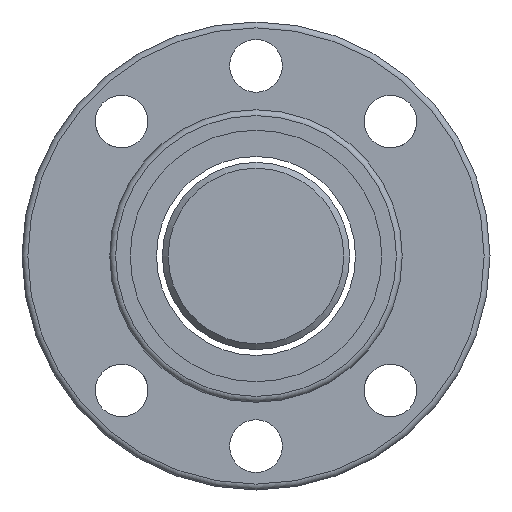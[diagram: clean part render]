
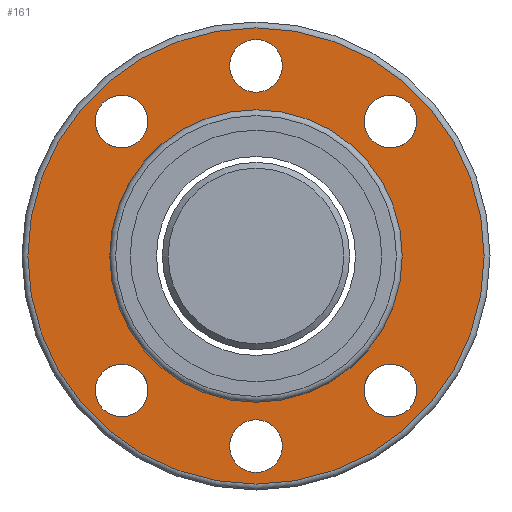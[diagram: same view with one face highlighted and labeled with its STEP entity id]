
A CAD part, left-side view. The second image highlights one B-rep face of the part: STEP entity #161.
In plain terms, the highlighted planar face has unit normal (-1, 0, 0).
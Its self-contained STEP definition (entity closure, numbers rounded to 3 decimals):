
#122=PLANE('',#671);
#137=FACE_OUTER_BOUND('',#326,.T.);
#161=ADVANCED_FACE('',(#232,#233,#234,#235,#236,#237,#238,#137),#122,.T.);
#232=FACE_BOUND('',#319,.T.);
#233=FACE_BOUND('',#320,.T.);
#234=FACE_BOUND('',#321,.T.);
#235=FACE_BOUND('',#322,.T.);
#236=FACE_BOUND('',#323,.T.);
#237=FACE_BOUND('',#324,.T.);
#238=FACE_BOUND('',#325,.T.);
#319=EDGE_LOOP('',(#417));
#320=EDGE_LOOP('',(#418));
#321=EDGE_LOOP('',(#419));
#322=EDGE_LOOP('',(#420));
#323=EDGE_LOOP('',(#421));
#324=EDGE_LOOP('',(#422));
#325=EDGE_LOOP('',(#423));
#326=EDGE_LOOP('',(#424));
#417=ORIENTED_EDGE('',*,*,#552,.F.);
#418=ORIENTED_EDGE('',*,*,#553,.F.);
#419=ORIENTED_EDGE('',*,*,#554,.F.);
#420=ORIENTED_EDGE('',*,*,#555,.F.);
#421=ORIENTED_EDGE('',*,*,#556,.F.);
#422=ORIENTED_EDGE('',*,*,#557,.F.);
#423=ORIENTED_EDGE('',*,*,#551,.T.);
#424=ORIENTED_EDGE('',*,*,#558,.F.);
#502=VERTEX_POINT('',#958);
#503=VERTEX_POINT('',#961);
#504=VERTEX_POINT('',#963);
#505=VERTEX_POINT('',#965);
#506=VERTEX_POINT('',#967);
#507=VERTEX_POINT('',#969);
#508=VERTEX_POINT('',#971);
#509=VERTEX_POINT('',#973);
#551=EDGE_CURVE('',#502,#502,#600,.T.);
#552=EDGE_CURVE('',#503,#503,#601,.T.);
#553=EDGE_CURVE('',#504,#504,#602,.T.);
#554=EDGE_CURVE('',#505,#505,#603,.T.);
#555=EDGE_CURVE('',#506,#506,#604,.T.);
#556=EDGE_CURVE('',#507,#507,#605,.T.);
#557=EDGE_CURVE('',#508,#508,#606,.T.);
#558=EDGE_CURVE('',#509,#509,#607,.T.);
#600=CIRCLE('',#662,25.);
#601=CIRCLE('',#664,4.5);
#602=CIRCLE('',#665,4.5);
#603=CIRCLE('',#666,4.5);
#604=CIRCLE('',#667,4.5);
#605=CIRCLE('',#668,4.5);
#606=CIRCLE('',#669,4.5);
#607=CIRCLE('',#670,39.);
#662=AXIS2_PLACEMENT_3D('',#957,#782,#783);
#664=AXIS2_PLACEMENT_3D('',#960,#786,#787);
#665=AXIS2_PLACEMENT_3D('',#962,#788,#789);
#666=AXIS2_PLACEMENT_3D('',#964,#790,#791);
#667=AXIS2_PLACEMENT_3D('',#966,#792,#793);
#668=AXIS2_PLACEMENT_3D('',#968,#794,#795);
#669=AXIS2_PLACEMENT_3D('',#970,#796,#797);
#670=AXIS2_PLACEMENT_3D('',#972,#798,#799);
#671=AXIS2_PLACEMENT_3D('',#974,#800,#801);
#782=DIRECTION('',(1.,0.,0.));
#783=DIRECTION('',(0.,0.,-1.));
#786=DIRECTION('',(-1.,0.,0.));
#787=DIRECTION('',(0.,0.,1.));
#788=DIRECTION('',(-1.,0.,0.));
#789=DIRECTION('',(0.,0.,1.));
#790=DIRECTION('',(-1.,0.,0.));
#791=DIRECTION('',(0.,0.,1.));
#792=DIRECTION('',(-1.,0.,0.));
#793=DIRECTION('',(0.,0.,1.));
#794=DIRECTION('',(-1.,0.,0.));
#795=DIRECTION('',(0.,0.,1.));
#796=DIRECTION('',(-1.,0.,0.));
#797=DIRECTION('',(0.,0.,1.));
#798=DIRECTION('',(1.,0.,0.));
#799=DIRECTION('',(0.,0.,-1.));
#800=DIRECTION('',(-1.,0.,0.));
#801=DIRECTION('',(0.,0.,1.));
#957=CARTESIAN_POINT('',(-27.,0.,0.));
#958=CARTESIAN_POINT('',(-27.,0.,-25.));
#960=CARTESIAN_POINT('',(-27.,22.981,22.981));
#961=CARTESIAN_POINT('',(-27.,22.981,27.481));
#962=CARTESIAN_POINT('',(-27.,22.981,-22.981));
#963=CARTESIAN_POINT('',(-27.,22.981,-18.481));
#964=CARTESIAN_POINT('',(-27.,0.,-32.5));
#965=CARTESIAN_POINT('',(-27.,0.,-28.));
#966=CARTESIAN_POINT('',(-27.,-22.981,-22.981));
#967=CARTESIAN_POINT('',(-27.,-22.981,-18.481));
#968=CARTESIAN_POINT('',(-27.,-22.981,22.981));
#969=CARTESIAN_POINT('',(-27.,-22.981,27.481));
#970=CARTESIAN_POINT('',(-27.,0.,32.5));
#971=CARTESIAN_POINT('',(-27.,0.,37.));
#972=CARTESIAN_POINT('',(-27.,0.,0.));
#973=CARTESIAN_POINT('',(-27.,0.,-39.));
#974=CARTESIAN_POINT('',(-27.,32.,0.));
